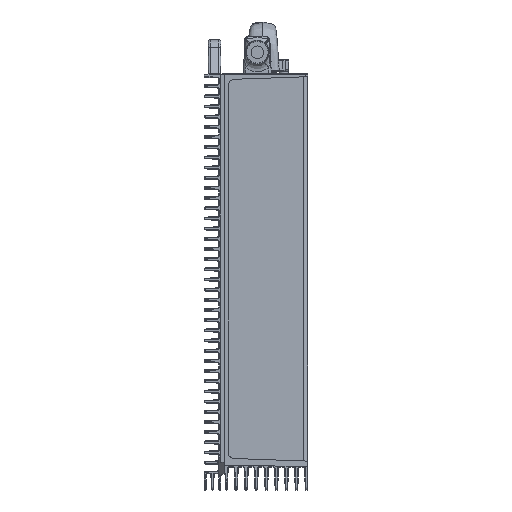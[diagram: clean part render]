
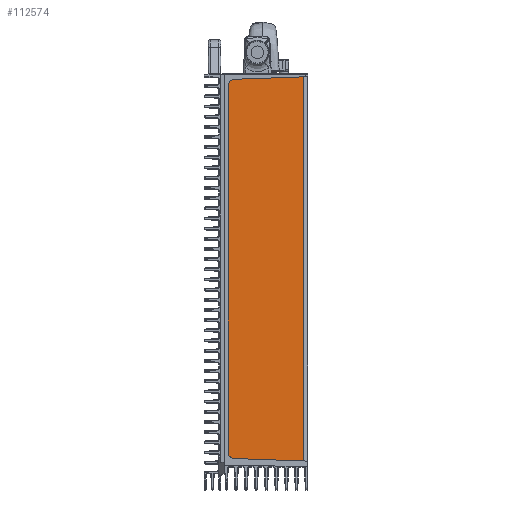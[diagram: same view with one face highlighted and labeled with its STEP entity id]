
A CAD part, front view. The second image highlights one B-rep face of the part: STEP entity #112574.
In plain terms, the highlighted planar face has unit normal (0.018, -1, 0).
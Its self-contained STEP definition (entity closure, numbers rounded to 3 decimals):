
#718 = CARTESIAN_POINT ( 'NONE',  ( -22.15, -83.105, 159.306 ) ) ;
#2655 = EDGE_CURVE ( 'NONE', #79924, #92115, #88370, .T. ) ;
#3357 = DIRECTION ( 'NONE',  ( -0.999, -0.017, -0.035 ) ) ;
#4611 = EDGE_CURVE ( 'NONE', #92115, #9625, #22321, .T. ) ;
#5060 = AXIS2_PLACEMENT_3D ( 'NONE', #70254, #87538, #79434 ) ;
#7334 = DIRECTION ( 'NONE',  ( 0., 0., -1. ) ) ;
#9625 = VERTEX_POINT ( 'NONE', #90244 ) ;
#14215 = CARTESIAN_POINT ( 'NONE',  ( 38.202, -82.051, 163.394 ) ) ;
#14402 = VERTEX_POINT ( 'NONE', #15196 ) ;
#15196 = CARTESIAN_POINT ( 'NONE',  ( -22.15, -83.105, 156.458 ) ) ;
#15721 = LINE ( 'NONE', #59690, #59440 ) ;
#16162 = CARTESIAN_POINT ( 'NONE',  ( -17.324, -83.021, -140.455 ) ) ;
#21899 = ORIENTED_EDGE ( 'NONE', *, *, #67805, .T. ) ;
#22321 = LINE ( 'NONE', #46514, #29115 ) ;
#25853 = FACE_OUTER_BOUND ( 'NONE', #64307, .T. ) ;
#26746 = CARTESIAN_POINT ( 'NONE',  ( -22.15, -83.105, 156.458 ) ) ;
#29115 = VECTOR ( 'NONE', #3357, 1000. ) ;
#31777 = LINE ( 'NONE', #72181, #50929 ) ;
#32201 = ORIENTED_EDGE ( 'NONE', *, *, #4611, .T. ) ;
#32941 = CARTESIAN_POINT ( 'NONE',  ( 38.202, -82.051, 156.458 ) ) ;
#34529 = EDGE_CURVE ( 'NONE', #14402, #34856, #15721, .T. ) ;
#34856 = VERTEX_POINT ( 'NONE', #91469 ) ;
#43055 = VERTEX_POINT ( 'NONE', #82764 ) ;
#46514 = CARTESIAN_POINT ( 'NONE',  ( 40.905, -82.004, 163.488 ) ) ;
#50929 = VECTOR ( 'NONE', #79506, 1000. ) ;
#53052 = CARTESIAN_POINT ( 'NONE',  ( -20.171, -83.07, 161.355 ) ) ;
#56107 = EDGE_CURVE ( 'NONE', #34856, #43055, #99062, .T. ) ;
#58482 = ORIENTED_EDGE ( 'NONE', *, *, #2655, .T. ) ;
#59440 = VECTOR ( 'NONE', #7334, 1000. ) ;
#59690 = CARTESIAN_POINT ( 'NONE',  ( -22.15, -83.105, 156.458 ) ) ;
#60012 = EDGE_CURVE ( 'NONE', #9625, #14402, #84177, .T. ) ;
#60645 = ORIENTED_EDGE ( 'NONE', *, *, #34529, .T. ) ;
#64307 = EDGE_LOOP ( 'NONE', ( #21899, #58482, #32201, #108484, #60645, #100498 ) ) ;
#67805 = EDGE_CURVE ( 'NONE', #43055, #79924, #31777, .T. ) ;
#68163 = CARTESIAN_POINT ( 'NONE',  ( -20.171, -83.07, -140.355 ) ) ;
#68519 = CARTESIAN_POINT ( 'NONE',  ( -22.15, -83.105, -138.306 ) ) ;
#70254 = CARTESIAN_POINT ( 'NONE',  ( 41.15, -82., 156.458 ) ) ;
#70642 = CARTESIAN_POINT ( 'NONE',  ( -17.324, -83.021, 161.455 ) ) ;
#72181 = CARTESIAN_POINT ( 'NONE',  ( 30.726, -82.182, -142.133 ) ) ;
#76824 = DIRECTION ( 'NONE',  ( 0., 0., 1. ) ) ;
#78673 = PLANE ( 'NONE',  #5060 ) ;
#79434 = DIRECTION ( 'NONE',  ( 1., 0.017, 0. ) ) ;
#79506 = DIRECTION ( 'NONE',  ( 0.999, 0.017, -0.035 ) ) ;
#79924 = VERTEX_POINT ( 'NONE', #95290 ) ;
#82764 = CARTESIAN_POINT ( 'NONE',  ( -17.324, -83.021, -140.455 ) ) ;
#84177 =( BOUNDED_CURVE ( )  B_SPLINE_CURVE ( 3, ( #70642, #53052, #718, #26746 ),
 .UNSPECIFIED., .F., .F. ) 
 B_SPLINE_CURVE_WITH_KNOTS ( ( 4, 4 ),
 ( 4.747, 6.283 ),
 .UNSPECIFIED. ) 
 CURVE ( )  GEOMETRIC_REPRESENTATION_ITEM ( )  RATIONAL_B_SPLINE_CURVE ( ( 1., 0.813, 0.813, 1. ) ) 
 REPRESENTATION_ITEM ( '' )  );
#87538 = DIRECTION ( 'NONE',  ( 0.017, -1., 0. ) ) ;
#88370 = LINE ( 'NONE', #32941, #91094 ) ;
#90244 = CARTESIAN_POINT ( 'NONE',  ( -17.324, -83.021, 161.455 ) ) ;
#91094 = VECTOR ( 'NONE', #76824, 1000. ) ;
#91469 = CARTESIAN_POINT ( 'NONE',  ( -22.15, -83.105, -135.458 ) ) ;
#92115 = VERTEX_POINT ( 'NONE', #14215 ) ;
#95290 = CARTESIAN_POINT ( 'NONE',  ( 38.202, -82.051, -142.394 ) ) ;
#99062 =( BOUNDED_CURVE ( )  B_SPLINE_CURVE ( 3, ( #110609, #68519, #68163, #16162 ),
 .UNSPECIFIED., .F., .F. ) 
 B_SPLINE_CURVE_WITH_KNOTS ( ( 4, 4 ),
 ( 0., 1.536 ),
 .UNSPECIFIED. ) 
 CURVE ( )  GEOMETRIC_REPRESENTATION_ITEM ( )  RATIONAL_B_SPLINE_CURVE ( ( 1., 0.813, 0.813, 1. ) ) 
 REPRESENTATION_ITEM ( '' )  );
#100498 = ORIENTED_EDGE ( 'NONE', *, *, #56107, .T. ) ;
#108484 = ORIENTED_EDGE ( 'NONE', *, *, #60012, .T. ) ;
#110609 = CARTESIAN_POINT ( 'NONE',  ( -22.15, -83.105, -135.458 ) ) ;
#112574 = ADVANCED_FACE ( 'NONE', ( #25853 ), #78673, .T. ) ;
